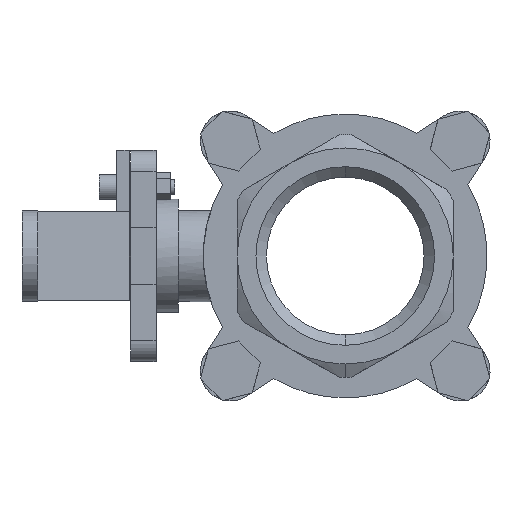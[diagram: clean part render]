
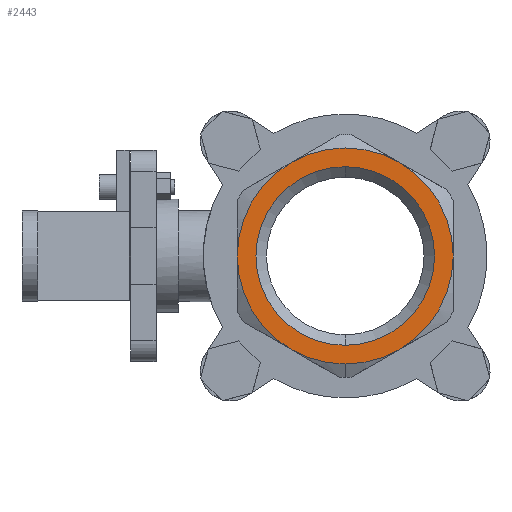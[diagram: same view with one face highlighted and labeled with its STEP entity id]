
A CAD part, left-side view. The second image highlights one B-rep face of the part: STEP entity #2443.
In plain terms, the highlighted planar face has unit normal (-1, 0, 0).
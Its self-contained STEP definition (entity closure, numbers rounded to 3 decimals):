
#135 = VERTEX_POINT ( 'NONE', #4883 ) ;
#415 = DIRECTION ( 'NONE',  ( 0., 0., 1. ) ) ;
#839 = CARTESIAN_POINT ( 'NONE',  ( -59., -34.25, 0. ) ) ;
#872 = VERTEX_POINT ( 'NONE', #839 ) ;
#974 = AXIS2_PLACEMENT_3D ( 'NONE', #4567, #10001, #5327 ) ;
#1254 = DIRECTION ( 'NONE',  ( 1., 0., 0. ) ) ;
#1646 = AXIS2_PLACEMENT_3D ( 'NONE', #7751, #3161, #8537 ) ;
#1695 = DIRECTION ( 'NONE',  ( -1., 0., 0. ) ) ;
#1741 = AXIS2_PLACEMENT_3D ( 'NONE', #8122, #3539, #8923 ) ;
#2306 = ORIENTED_EDGE ( 'NONE', *, *, #8978, .F. ) ;
#2314 = EDGE_CURVE ( 'NONE', #2713, #9826, #3889, .T. ) ;
#2374 = FACE_BOUND ( 'NONE', #7872, .T. ) ;
#2443 = ADVANCED_FACE ( 'NONE', ( #2374, #8085 ), #5980, .F. ) ;
#2703 = AXIS2_PLACEMENT_3D ( 'NONE', #9866, #5217, #415 ) ;
#2713 = VERTEX_POINT ( 'NONE', #8043 ) ;
#2795 = VERTEX_POINT ( 'NONE', #9936 ) ;
#2831 = ORIENTED_EDGE ( 'NONE', *, *, #8528, .T. ) ;
#2839 = AXIS2_PLACEMENT_3D ( 'NONE', #8988, #4365, #9763 ) ;
#2899 = CARTESIAN_POINT ( 'NONE',  ( -59., 28.325, 0. ) ) ;
#2902 = EDGE_LOOP ( 'NONE', ( #4420, #2831, #6931, #9011, #7174, #9252, #7419 ) ) ;
#2950 = AXIS2_PLACEMENT_3D ( 'NONE', #6415, #1695, #7171 ) ;
#3106 = CIRCLE ( 'NONE', #6592, 34.25 ) ;
#3158 = EDGE_CURVE ( 'NONE', #135, #2795, #7984, .T. ) ;
#3161 = DIRECTION ( 'NONE',  ( -1., 0., 0. ) ) ;
#3203 = CARTESIAN_POINT ( 'NONE',  ( -59., 17.125, 29.661 ) ) ;
#3248 = VERTEX_POINT ( 'NONE', #8315 ) ;
#3317 = AXIS2_PLACEMENT_3D ( 'NONE', #2899, #1254, #6772 ) ;
#3526 = DIRECTION ( 'NONE',  ( -1., 0., 0. ) ) ;
#3539 = DIRECTION ( 'NONE',  ( -1., 0., 0. ) ) ;
#3889 = CIRCLE ( 'NONE', #2950, 34.25 ) ;
#4138 = EDGE_CURVE ( 'NONE', #5940, #2713, #8951, .T. ) ;
#4365 = DIRECTION ( 'NONE',  ( -1., 0., 0. ) ) ;
#4420 = ORIENTED_EDGE ( 'NONE', *, *, #7038, .T. ) ;
#4567 = CARTESIAN_POINT ( 'NONE',  ( -59., 0., 0. ) ) ;
#4678 = DIRECTION ( 'NONE',  ( -1., 0., 0. ) ) ;
#4755 = CARTESIAN_POINT ( 'NONE',  ( -59., 0., 0. ) ) ;
#4883 = CARTESIAN_POINT ( 'NONE',  ( -59., 0., 28.325 ) ) ;
#4944 = EDGE_CURVE ( 'NONE', #9826, #872, #5304, .T. ) ;
#5217 = DIRECTION ( 'NONE',  ( -1., 0., 0. ) ) ;
#5304 = CIRCLE ( 'NONE', #9512, 34.25 ) ;
#5327 = DIRECTION ( 'NONE',  ( 0., 0., 1. ) ) ;
#5515 = DIRECTION ( 'NONE',  ( 0., 0., 1. ) ) ;
#5940 = VERTEX_POINT ( 'NONE', #8653 ) ;
#5980 = PLANE ( 'NONE',  #3317 ) ;
#6415 = CARTESIAN_POINT ( 'NONE',  ( -59., 0., 0. ) ) ;
#6592 = AXIS2_PLACEMENT_3D ( 'NONE', #8110, #3526, #8905 ) ;
#6772 = DIRECTION ( 'NONE',  ( 0., 0., -1. ) ) ;
#6931 = ORIENTED_EDGE ( 'NONE', *, *, #4138, .T. ) ;
#7038 = EDGE_CURVE ( 'NONE', #8174, #3248, #8316, .T. ) ;
#7067 = CIRCLE ( 'NONE', #1741, 34.25 ) ;
#7171 = DIRECTION ( 'NONE',  ( 0., 0., 1. ) ) ;
#7174 = ORIENTED_EDGE ( 'NONE', *, *, #4944, .T. ) ;
#7419 = ORIENTED_EDGE ( 'NONE', *, *, #9699, .T. ) ;
#7751 = CARTESIAN_POINT ( 'NONE',  ( -59., 0., 0. ) ) ;
#7872 = EDGE_LOOP ( 'NONE', ( #8275, #2306 ) ) ;
#7984 = CIRCLE ( 'NONE', #974, 28.325 ) ;
#8043 = CARTESIAN_POINT ( 'NONE',  ( -59., 0., -34.25 ) ) ;
#8085 = FACE_OUTER_BOUND ( 'NONE', #2902, .T. ) ;
#8110 = CARTESIAN_POINT ( 'NONE',  ( -59., 0., 0. ) ) ;
#8122 = CARTESIAN_POINT ( 'NONE',  ( -59., 0., 0. ) ) ;
#8174 = VERTEX_POINT ( 'NONE', #3203 ) ;
#8275 = ORIENTED_EDGE ( 'NONE', *, *, #3158, .F. ) ;
#8315 = CARTESIAN_POINT ( 'NONE',  ( -59., 34.25, 0. ) ) ;
#8316 = CIRCLE ( 'NONE', #2703, 34.25 ) ;
#8480 = EDGE_CURVE ( 'NONE', #872, #9601, #7067, .T. ) ;
#8528 = EDGE_CURVE ( 'NONE', #3248, #5940, #8654, .T. ) ;
#8537 = DIRECTION ( 'NONE',  ( 0., 0., 1. ) ) ;
#8653 = CARTESIAN_POINT ( 'NONE',  ( -59., 17.125, -29.661 ) ) ;
#8654 = CIRCLE ( 'NONE', #2839, 34.25 ) ;
#8905 = DIRECTION ( 'NONE',  ( 0., 0., 1. ) ) ;
#8923 = DIRECTION ( 'NONE',  ( 0., 0., 1. ) ) ;
#8951 = CIRCLE ( 'NONE', #1646, 34.25 ) ;
#8978 = EDGE_CURVE ( 'NONE', #2795, #135, #10306, .T. ) ;
#8988 = CARTESIAN_POINT ( 'NONE',  ( -59., 0., 0. ) ) ;
#9011 = ORIENTED_EDGE ( 'NONE', *, *, #2314, .T. ) ;
#9252 = ORIENTED_EDGE ( 'NONE', *, *, #8480, .T. ) ;
#9315 = CARTESIAN_POINT ( 'NONE',  ( -59., 0., 0. ) ) ;
#9477 = CARTESIAN_POINT ( 'NONE',  ( -59., -17.125, 29.661 ) ) ;
#9512 = AXIS2_PLACEMENT_3D ( 'NONE', #9315, #4678, #10133 ) ;
#9601 = VERTEX_POINT ( 'NONE', #9477 ) ;
#9699 = EDGE_CURVE ( 'NONE', #9601, #8174, #3106, .T. ) ;
#9763 = DIRECTION ( 'NONE',  ( 0., 0., 1. ) ) ;
#9826 = VERTEX_POINT ( 'NONE', #9940 ) ;
#9866 = CARTESIAN_POINT ( 'NONE',  ( -59., 0., 0. ) ) ;
#9936 = CARTESIAN_POINT ( 'NONE',  ( -59., 0., -28.325 ) ) ;
#9940 = CARTESIAN_POINT ( 'NONE',  ( -59., -17.125, -29.661 ) ) ;
#10001 = DIRECTION ( 'NONE',  ( -1., 0., 0. ) ) ;
#10133 = DIRECTION ( 'NONE',  ( 0., 0., 1. ) ) ;
#10151 = AXIS2_PLACEMENT_3D ( 'NONE', #4755, #10221, #5515 ) ;
#10221 = DIRECTION ( 'NONE',  ( -1., 0., 0. ) ) ;
#10306 = CIRCLE ( 'NONE', #10151, 28.325 ) ;
